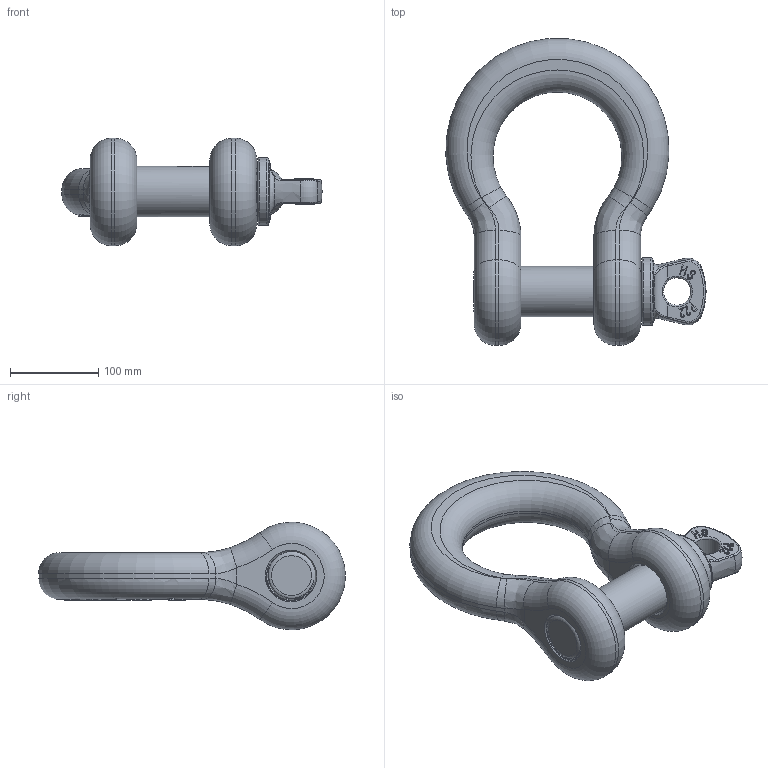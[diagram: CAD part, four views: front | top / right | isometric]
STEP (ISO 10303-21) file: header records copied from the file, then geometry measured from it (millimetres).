
FILE_DESCRIPTION(/* description */ (''),/* implementation_level */ '2;1');
FILE_NAME(/* name */ 'G-2410-2.stp',/* time_stamp */ '2025-04-08T08:21:11+08:00',/* author */ (''),/* organization */ (''),/* preprocessor_version */ 'ST-DEVELOPER v16',/* originating_system */ 'SIEMENS PLM Software NX 10.0',/* authorisation */ '');
FILE_SCHEMA (('AP203_CONFIGURATION_CONTROLLED_3D_DESIGN_OF_MECHANICAL_PARTS_AND_ASSEMBLIES_MIM_LF { 1 0 10303 403 2 1 2}'));
Length unit declared in the file: millimetre
Products named in the file (1): Admi20FC52B4dhqi
Bounding box: 294.86 x 347.54 x 121.85 mm (x, y, z)
Volume: 2766286.8 mm3; surface area: 234276.5 mm2
Topology: 2 solids, 2 shells, 514 faces, 1429 edges, 933 vertices
Faces by surface type: plane 229, extrusion 142, cylinder 62, bspline 40, torus 33, cone 7, sphere 1
Full cylindrical faces by diameter (mm): 31 x1, 57 x8, 58 x1, 77 x1
Entity records: 23612 total; most frequent: CARTESIAN_POINT 11990, ORIENTED_EDGE 2760, DIRECTION 1719, EDGE_CURVE 1380, VERTEX_POINT 906, B_SPLINE_CURVE_WITH_KNOTS 815, VECTOR 631, AXIS2_PLACEMENT_3D 544
